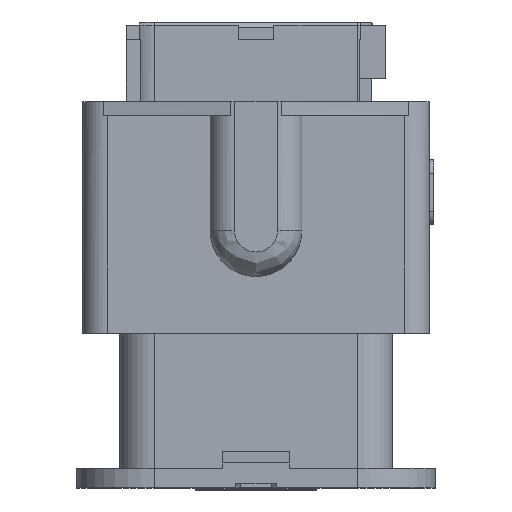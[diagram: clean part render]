
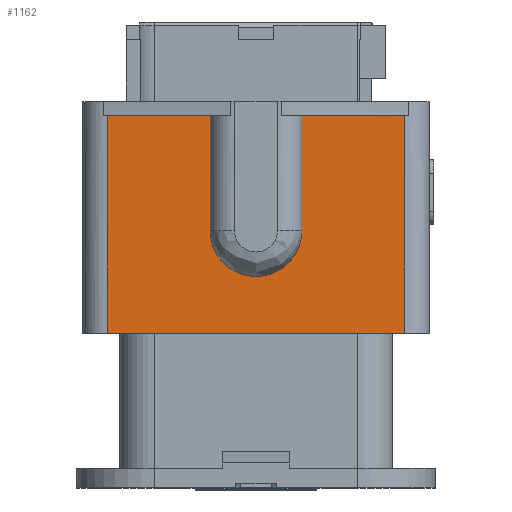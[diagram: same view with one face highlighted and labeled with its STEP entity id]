
A CAD part, top view. The second image highlights one B-rep face of the part: STEP entity #1162.
In plain terms, the highlighted planar face has unit normal (0, 0, 1).
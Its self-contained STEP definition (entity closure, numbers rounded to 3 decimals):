
#314=FACE_OUTER_BOUND('',#2993,.T.);
#1162=ADVANCED_FACE('',(#314),#1982,.T.);
#1982=PLANE('',#16307);
#2683=CIRCLE('',#16306,2.6);
#2993=EDGE_LOOP('',(#4462,#4463,#4464,#4465,#4466,#4467,#4468,#4469));
#4462=ORIENTED_EDGE('',*,*,#10416,.T.);
#4463=ORIENTED_EDGE('',*,*,#10300,.T.);
#4464=ORIENTED_EDGE('',*,*,#10417,.T.);
#4465=ORIENTED_EDGE('',*,*,#10418,.F.);
#4466=ORIENTED_EDGE('',*,*,#10419,.F.);
#4467=ORIENTED_EDGE('',*,*,#10420,.F.);
#4468=ORIENTED_EDGE('',*,*,#10421,.T.);
#4469=ORIENTED_EDGE('',*,*,#10422,.F.);
#8758=VERTEX_POINT('',#22304);
#8759=VERTEX_POINT('',#22306);
#8838=VERTEX_POINT('',#22625);
#8839=VERTEX_POINT('',#22627);
#8840=VERTEX_POINT('',#22629);
#8841=VERTEX_POINT('',#22631);
#8842=VERTEX_POINT('',#22633);
#8843=VERTEX_POINT('',#22635);
#10300=EDGE_CURVE('',#8759,#8758,#12530,.T.);
#10416=EDGE_CURVE('',#8838,#8759,#12610,.T.);
#10417=EDGE_CURVE('',#8758,#8839,#12611,.T.);
#10418=EDGE_CURVE('',#8840,#8839,#12612,.T.);
#10419=EDGE_CURVE('',#8841,#8840,#12613,.T.);
#10420=EDGE_CURVE('',#8842,#8841,#2683,.T.);
#10421=EDGE_CURVE('',#8842,#8843,#12614,.T.);
#10422=EDGE_CURVE('',#8838,#8843,#12615,.T.);
#12530=LINE('',#22305,#14531);
#12610=LINE('',#22624,#14611);
#12611=LINE('',#22626,#14612);
#12612=LINE('',#22628,#14613);
#12613=LINE('',#22630,#14614);
#12614=LINE('',#22634,#14615);
#12615=LINE('',#22636,#14616);
#14531=VECTOR('',#17817,1.);
#14611=VECTOR('',#17995,1.);
#14612=VECTOR('',#17996,1.);
#14613=VECTOR('',#17997,1.);
#14614=VECTOR('',#17998,1.);
#14615=VECTOR('',#18001,1.);
#14616=VECTOR('',#18002,1.);
#16306=AXIS2_PLACEMENT_3D('',#22632,#17999,#18000);
#16307=AXIS2_PLACEMENT_3D('',#22637,#18003,#18004);
#17817=DIRECTION('',(1.,0.,0.));
#17995=DIRECTION('',(0.,-1.,0.));
#17996=DIRECTION('',(0.,1.,0.));
#17997=DIRECTION('',(1.,0.,0.));
#17998=DIRECTION('',(0.,1.,0.));
#17999=DIRECTION('',(0.,0.,1.));
#18000=DIRECTION('',(-1.,0.,0.));
#18001=DIRECTION('',(0.,1.,0.));
#18002=DIRECTION('',(1.,0.,0.));
#18003=DIRECTION('',(0.,0.,1.));
#18004=DIRECTION('',(1.,0.,0.));
#22304=CARTESIAN_POINT('',(8.4,-17.6,6.2));
#22305=CARTESIAN_POINT('',(5.7,-17.6,6.2));
#22306=CARTESIAN_POINT('',(-8.4,-17.6,6.2));
#22624=CARTESIAN_POINT('',(-8.4,-4.5,6.2));
#22625=CARTESIAN_POINT('',(-8.402,-5.3,6.209));
#22626=CARTESIAN_POINT('',(8.4,-4.5,6.2));
#22627=CARTESIAN_POINT('',(8.402,-5.3,6.209));
#22628=CARTESIAN_POINT('',(5.7,-5.3,6.2));
#22629=CARTESIAN_POINT('',(2.6,-5.3,6.2));
#22630=CARTESIAN_POINT('',(2.6,-11.8,6.2));
#22631=CARTESIAN_POINT('',(2.6,-11.8,6.2));
#22632=CARTESIAN_POINT('',(0.,-11.8,6.2));
#22633=CARTESIAN_POINT('',(-2.6,-11.8,6.2));
#22634=CARTESIAN_POINT('',(-2.6,-11.8,6.2));
#22635=CARTESIAN_POINT('',(-2.6,-5.3,6.2));
#22636=CARTESIAN_POINT('',(5.7,-5.3,6.2));
#22637=CARTESIAN_POINT('',(5.7,-4.5,6.2));
